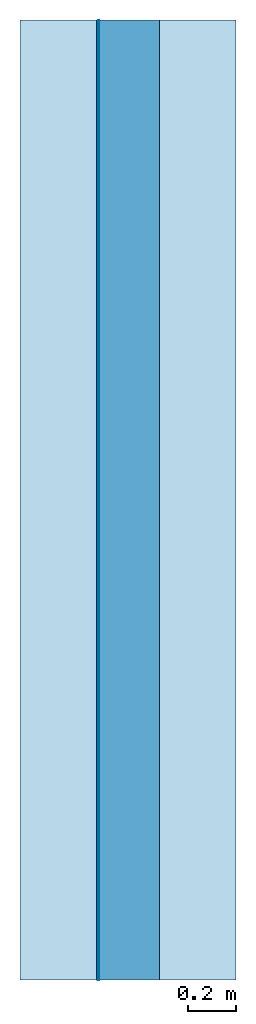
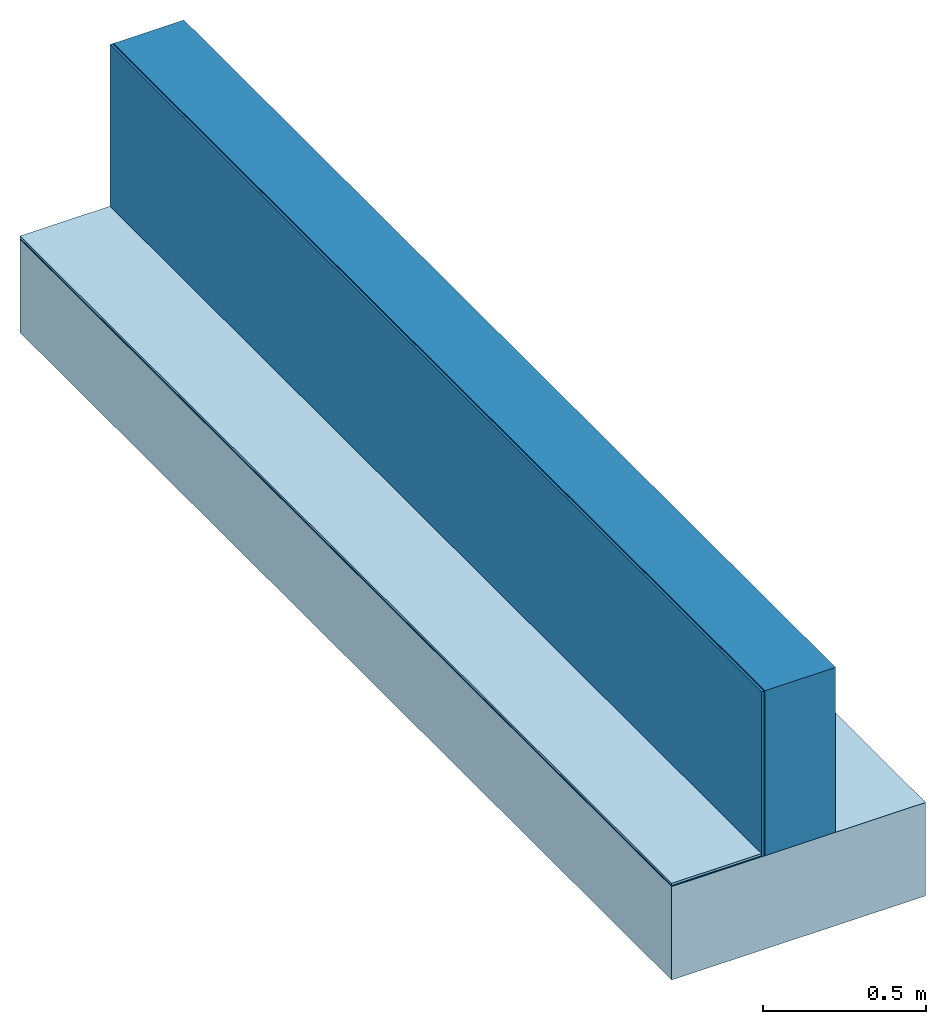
# One storey: 4 walls, 3 slabs, 1 footing.
"""IFC2X3 building model written with IfcOpenShell, lengths in millimetres."""

from ifc_helpers import new_model, entity, si_unit, converted_unit, derived_unit, direction, frame, frame_2d, origin, origin_2d_with_axis, place, context, subcontext, project, spatial, rectangle, extrude, material, element, save


model = new_model("IFC2X3")

# Units and contexts
model_context = context("Model", 3, precision=0.01, world=origin(), true_north=direction((6.12303176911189e-17, 1.0)))
body_context = subcontext(model_context, "Body", "Model", "MODEL_VIEW")
ifc_project = project(units=[si_unit("LENGTHUNIT", "METRE", prefix="MILLI"), si_unit("AREAUNIT", "SQUARE_METRE"), si_unit("VOLUMEUNIT", "CUBIC_METRE"), converted_unit("PLANEANGLEUNIT", "DEGREE", entity("IfcRatioMeasure", 0.0174532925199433), si_unit("PLANEANGLEUNIT", "RADIAN"), dimensions=[0, 0, 0, 0, 0, 0, 0]), si_unit("MASSUNIT", "GRAM", prefix="KILO"), derived_unit("MASSDENSITYUNIT", [(si_unit("MASSUNIT", "GRAM", prefix="KILO"), 1), (si_unit("LENGTHUNIT", "METRE"), -3)]), si_unit("TIMEUNIT", "SECOND"), si_unit("FREQUENCYUNIT", "HERTZ"), si_unit("THERMODYNAMICTEMPERATUREUNIT", "DEGREE_CELSIUS"), derived_unit("THERMALTRANSMITTANCEUNIT", [(si_unit("MASSUNIT", "GRAM", prefix="KILO"), 1), (si_unit("THERMODYNAMICTEMPERATUREUNIT", "KELVIN"), -1), (si_unit("TIMEUNIT", "SECOND"), -3)]), derived_unit("VOLUMETRICFLOWRATEUNIT", [(si_unit("LENGTHUNIT", "METRE"), 3), (si_unit("TIMEUNIT", "SECOND"), -1)]), si_unit("ELECTRICCURRENTUNIT", "AMPERE"), si_unit("ELECTRICVOLTAGEUNIT", "VOLT"), si_unit("POWERUNIT", "WATT"), si_unit("FORCEUNIT", "NEWTON", prefix="KILO"), si_unit("ILLUMINANCEUNIT", "LUX"), si_unit("LUMINOUSFLUXUNIT", "LUMEN"), si_unit("LUMINOUSINTENSITYUNIT", "CANDELA"), derived_unit("USERDEFINED", [(si_unit("MASSUNIT", "GRAM", prefix="KILO"), -1), (si_unit("LENGTHUNIT", "METRE"), -2), (si_unit("TIMEUNIT", "SECOND"), 3), (si_unit("LUMINOUSFLUXUNIT", "LUMEN"), 1)]), derived_unit("LINEARVELOCITYUNIT", [(si_unit("LENGTHUNIT", "METRE"), 1), (si_unit("TIMEUNIT", "SECOND"), -1)]), si_unit("PRESSUREUNIT", "PASCAL"), derived_unit("USERDEFINED", [(si_unit("LENGTHUNIT", "METRE"), -2), (si_unit("MASSUNIT", "GRAM", prefix="KILO"), 1), (si_unit("TIMEUNIT", "SECOND"), -2)])], contexts=[model_context])

# Site, building, storey
site_placement = place(None, origin())
site = spatial("IfcSite", under=ifc_project, at=site_placement, Name="Default", CompositionType="ELEMENT")
building_placement = place(site_placement, origin())
building = spatial("IfcBuilding", under=site, at=building_placement, CompositionType="ELEMENT")
storey_placement = place(building_placement, origin())
storey = spatial("IfcBuildingStorey", under=building, at=storey_placement, Name="Nivel 1", CompositionType="ELEMENT", Elevation=0.0)

# Footing
ifc_material_1 = material(Name="Hormigón, moldeado in situ")
footing_placement = place(storey_placement, origin())
element("IfcFooting", 1, at=footing_placement, inside=storey, material=ifc_material_1, Name="Cimentación de muro:ZapataCorrida", ObjectType="Cimentación de muro:ZapataCorrida", PredefinedType="STRIP_FOOTING", context=body_context, shape_type="SweptSolid", body=[
    extrude(rectangle(XDim=4000.0, YDim=900.0, at=frame_2d((0.0, 5.40012479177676e-13), x_axis=(1.0, 0.0))), frame((-6604.95271651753, -1086.84289171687, 272.073370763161), z_axis=(0.0, 0.0, 1.0), x_axis=(0.0, -1.0, 0.0)), (0.0, 0.0, 1.0), 350.0),
])

# Slabs
ifc_material_2 = material(Name="IM_PolietilenoAltaDensidadyGeotextil_Lamina_ChovaDrenDD")
slab_1_placement = place(storey_placement, origin())
element("IfcSlab", 2, at=slab_1_placement, inside=storey, material=ifc_material_2, Name="Pieza", context=body_context, shape_type="SweptSolid", body=[
    extrude(rectangle(XDim=318.608619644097, YDim=4000.0, at=origin_2d_with_axis()), frame((-6895.33590669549, -1086.84289171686, 626.0625), z_axis=(0.0, 0.0, 1.0), x_axis=(-1.0, 0.0, 0.0)), (0.0, 0.0, 1.0), 7.99999999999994),
])
ifc_material_3 = material(Name="IM_LaminaAsfaltica_Lamina_PolitaberPolPy30 (LBM 30-FP)")
slab_2_placement = place(storey_placement, origin())
element("IfcSlab", 3, at=slab_2_placement, inside=storey, material=ifc_material_3, Name="Pieza", context=body_context, shape_type="SweptSolid", body=[
    extrude(rectangle(XDim=318.608619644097, YDim=4000.0, at=frame_2d((0.0, 2.27373675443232e-13), x_axis=(1.0, 0.0))), frame((-6895.33590669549, -1086.84289171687, 624.0625), z_axis=(0.0, 0.0, 1.0), x_axis=(-1.0, 0.0, 0.0)), (0.0, 0.0, 1.0), 2.00000000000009),
])
ifc_material_4 = material(Name="IM_EmulsionBituminosa_Bote_Supermul")
slab_3_placement = place(storey_placement, origin())
element("IfcSlab", 4, at=slab_3_placement, inside=storey, material=ifc_material_4, Name="Pieza", context=body_context, shape_type="SweptSolid", body=[
    extrude(rectangle(XDim=318.608619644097, YDim=4000.0, at=origin_2d_with_axis()), frame((-6895.33590669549, -1086.84289171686, 622.0625), z_axis=(0.0, 0.0, 1.0), x_axis=(-1.0, 0.0, 0.0)), (0.0, 0.0, 1.0), 1.99999999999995),
])

# Walls
wall_1_placement = place(storey_placement, origin())
element("IfcWall", 5, at=wall_1_placement, inside=storey, material=ifc_material_2, Name="Pieza", context=body_context, shape_type="SweptSolid", body=[
    extrude(rectangle(XDim=7.99999999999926, YDim=4000.0, at=frame_2d((-5.41344746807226e-13, -2.27373675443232e-13), x_axis=(1.0, 0.0))), frame((-6731.95271651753, -1086.84289171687, 622.073370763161)), (0.0, 0.0, 1.0), 617.926629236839),
])
wall_2_placement = place(storey_placement, origin())
element("IfcWall", 6, at=wall_2_placement, inside=storey, material=ifc_material_3, Name="Pieza", context=body_context, shape_type="SweptSolid", body=[
    extrude(rectangle(XDim=4000.0, YDim=2.00000000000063, at=frame_2d((0.0, 5.41455769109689e-13), x_axis=(1.0, 0.0))), frame((-6726.95271651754, -1086.84289171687, 622.073370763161), z_axis=(0.0, 0.0, 1.0), x_axis=(0.0, -1.0, 0.0)), (0.0, 0.0, 1.0), 617.926629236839),
])
wall_3_placement = place(storey_placement, origin())
element("IfcWall", 7, at=wall_3_placement, inside=storey, material=ifc_material_4, Name="Pieza", context=body_context, shape_type="SweptSolid", body=[
    extrude(rectangle(XDim=4000.0, YDim=1.99999999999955, at=origin_2d_with_axis()), frame((-6724.95271651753, -1086.84289171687, 622.073370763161), z_axis=(0.0, 0.0, 1.0), x_axis=(0.0, -1.0, 0.0)), (0.0, 0.0, 1.0), 617.926629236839),
])
ifc_material_5 = material(Name="Soporte resistente")
wall_4_placement = place(storey_placement, origin())
element("IfcWall", 8, at=wall_4_placement, inside=storey, material=ifc_material_5, Name="Pieza", context=body_context, shape_type="SweptSolid", body=[
    extrude(rectangle(XDim=250.000000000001, YDim=4000.0, at=frame_2d((5.40012479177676e-13, -3.41060513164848e-13), x_axis=(1.0, 0.0))), frame((-6598.95271651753, -1086.84289171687, 622.073370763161), z_axis=(0.0, 0.0, 1.0), x_axis=(-1.0, 0.0, 0.0)), (0.0, 0.0, 1.0), 617.926629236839),
])

save(model, "model.ifc")
